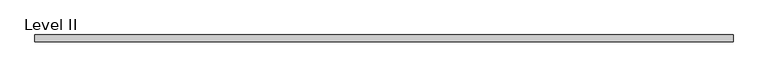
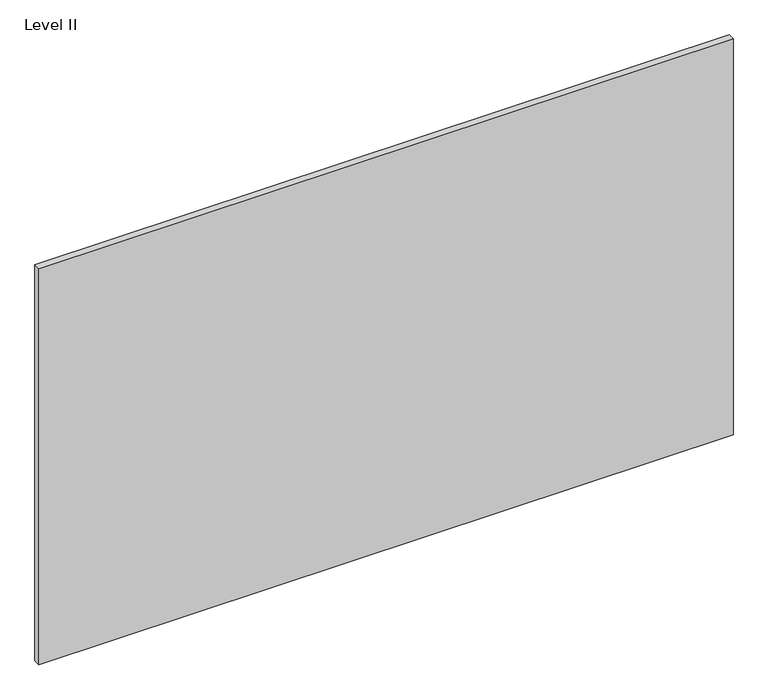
"""IFC4 building model written with IfcOpenShell, lengths in millimetres: proxy geometry, Panel-Fascia-Teknion-Altos-Landscape : Level II."""

from ifc_helpers import new_model, si_unit, frame, origin, place, context, project, spatial, polyline, outline, extrude, source, transform, mapped, element, save


def level_ii_bdfab47d(model_context):
    return source(origin(), model_context, "Body", "SweptSolid", [
        extrude(outline(polyline([(1005.8356344, -9.525), (-1005.8356344, -9.525), (-1005.8356344, 9.525), (1005.8356344, 9.525), (1005.8356344, -9.525)])), frame((0.0, 0.0, 3.175), z_axis=(0.0, 0.0, 1.0), x_axis=(1.0, 0.0, 0.0)), (0.0, 0.0, 1.0), 1212.85),
    ])


if __name__ == "__main__":
    model = new_model("IFC4")
    model_context = context("Model", 3, world=origin())
    ifc_project = project(units=[si_unit("LENGTHUNIT", "METRE", prefix="MILLI")], contexts=[model_context])
    site = spatial("IfcSite", under=ifc_project)
    building = spatial("IfcBuilding", under=site)
    placement = place(None, origin())
    level_ii_shape = level_ii_bdfab47d(model_context)
    element("IfcBuildingElementProxy", 1, Name="Panel-Fascia-Teknion-Altos-Landscape : Level II", ObjectType="Panel-Fascia-Teknion-Altos-Landscape : Level II", at=placement, inside=building, context=model_context, shape_type="MappedRepresentation", body=[
        mapped(level_ii_shape, transform((0.0, 0.0, 0.0), x_axis=(1.0, 0.0, 0.0), y_axis=(0.0, 1.0, 0.0), z_axis=(0.0, 0.0, 1.0))),
    ])
    save(model, "model.ifc")
